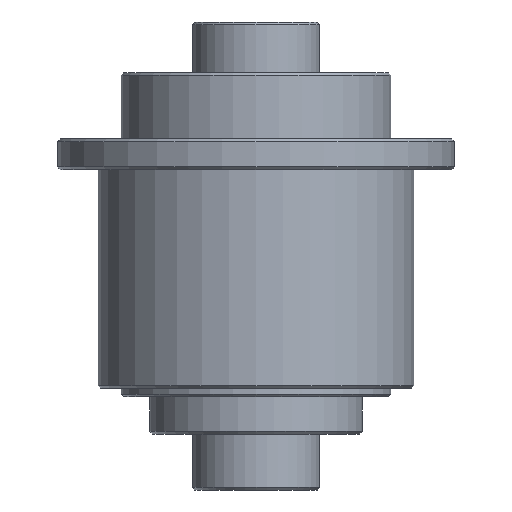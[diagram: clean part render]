
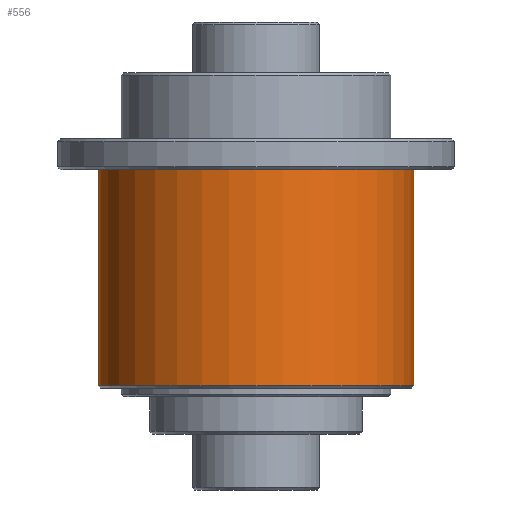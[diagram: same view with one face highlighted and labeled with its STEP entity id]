
A CAD part, front view. The second image highlights one B-rep face of the part: STEP entity #556.
In plain terms, the highlighted cylindrical face has radius 31 mm (diameter 62 mm), a partial arc.
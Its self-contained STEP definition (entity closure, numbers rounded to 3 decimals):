
#106 = CARTESIAN_POINT ( 'NONE',  ( 0., 0., 4. ) ) ;
#113 = DIRECTION ( 'NONE',  ( 0., 0., 1. ) ) ;
#119 = DIRECTION ( 'NONE',  ( 0., 0., 1. ) ) ;
#331 = EDGE_CURVE ( 'NONE', #1645, #719, #1802, .T. ) ;
#363 = EDGE_CURVE ( 'NONE', #2131, #1306, #1576, .T. ) ;
#398 = FACE_OUTER_BOUND ( 'NONE', #1943, .T. ) ;
#438 = VECTOR ( 'NONE', #3116, 1000. ) ;
#447 = CARTESIAN_POINT ( 'NONE',  ( 31., 0., -19. ) ) ;
#556 = ADVANCED_FACE ( 'NONE', ( #398 ), #2029, .T. ) ;
#636 = ORIENTED_EDGE ( 'NONE', *, *, #1648, .F. ) ;
#719 = VERTEX_POINT ( 'NONE', #447 ) ;
#863 = CARTESIAN_POINT ( 'NONE',  ( 0., 0., -61.499 ) ) ;
#1109 = DIRECTION ( 'NONE',  ( 1., 0., 0. ) ) ;
#1121 = CIRCLE ( 'NONE', #3277, 31. ) ;
#1232 = CARTESIAN_POINT ( 'NONE',  ( -31., 0., -19. ) ) ;
#1306 = VERTEX_POINT ( 'NONE', #1232 ) ;
#1576 = LINE ( 'NONE', #3137, #1656 ) ;
#1586 = CARTESIAN_POINT ( 'NONE',  ( 0., 0., -19. ) ) ;
#1620 = CARTESIAN_POINT ( 'NONE',  ( -31., 0., -61.499 ) ) ;
#1643 = EDGE_CURVE ( 'NONE', #2131, #1645, #1121, .T. ) ;
#1645 = VERTEX_POINT ( 'NONE', #2313 ) ;
#1648 = EDGE_CURVE ( 'NONE', #1306, #719, #2976, .T. ) ;
#1656 = VECTOR ( 'NONE', #119, 1000. ) ;
#1742 = AXIS2_PLACEMENT_3D ( 'NONE', #106, #3123, #1818 ) ;
#1802 = LINE ( 'NONE', #2577, #438 ) ;
#1818 = DIRECTION ( 'NONE',  ( 1., 0., 0. ) ) ;
#1823 = DIRECTION ( 'NONE',  ( 1., 0., 0. ) ) ;
#1831 = ORIENTED_EDGE ( 'NONE', *, *, #1643, .T. ) ;
#1943 = EDGE_LOOP ( 'NONE', ( #2441, #1831, #3232, #636 ) ) ;
#2029 = CYLINDRICAL_SURFACE ( 'NONE', #1742, 31. ) ;
#2131 = VERTEX_POINT ( 'NONE', #1620 ) ;
#2313 = CARTESIAN_POINT ( 'NONE',  ( 31., 0., -61.499 ) ) ;
#2441 = ORIENTED_EDGE ( 'NONE', *, *, #363, .F. ) ;
#2577 = CARTESIAN_POINT ( 'NONE',  ( 31., 0., 4. ) ) ;
#2591 = DIRECTION ( 'NONE',  ( 0., 0., 1. ) ) ;
#2976 = CIRCLE ( 'NONE', #3256, 31. ) ;
#3116 = DIRECTION ( 'NONE',  ( 0., 0., 1. ) ) ;
#3123 = DIRECTION ( 'NONE',  ( 0., 0., 1. ) ) ;
#3137 = CARTESIAN_POINT ( 'NONE',  ( -31., 0., 4. ) ) ;
#3232 = ORIENTED_EDGE ( 'NONE', *, *, #331, .T. ) ;
#3256 = AXIS2_PLACEMENT_3D ( 'NONE', #1586, #113, #1823 ) ;
#3277 = AXIS2_PLACEMENT_3D ( 'NONE', #863, #2591, #1109 ) ;
